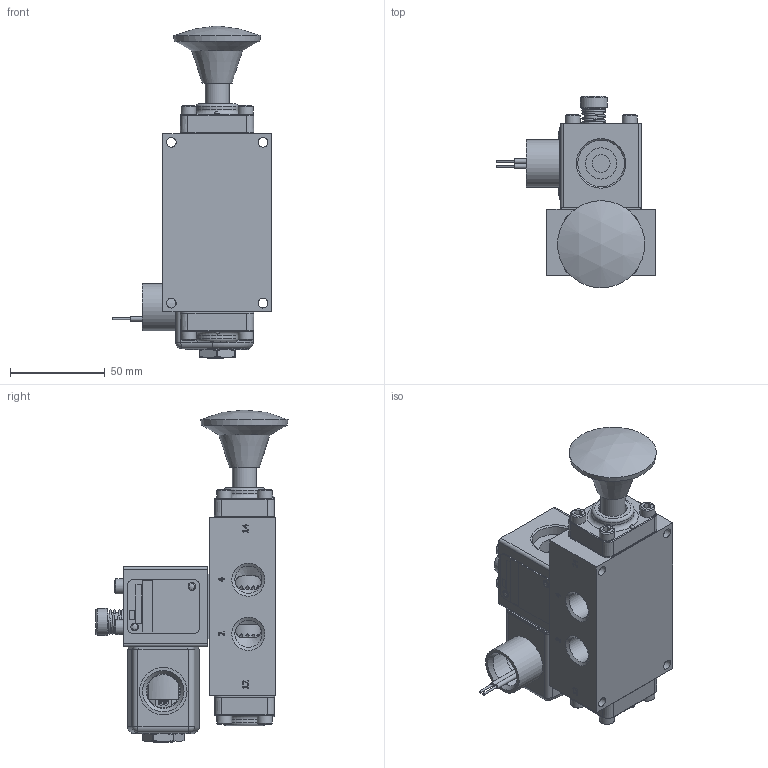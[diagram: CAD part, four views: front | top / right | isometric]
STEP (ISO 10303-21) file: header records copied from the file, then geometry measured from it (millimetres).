
FILE_DESCRIPTION(/* description */ (''),/* implementation_level */ '2;1');
FILE_NAME(/* name */ 'D:\Engineering\Product\valves\Assembly\Classic\SAK\stp\SAK3O.stp',/* time_stamp */ '2021-03-29T12:29:08-04:00',/* author */ ('RMcKenna'),/* organization */ (''),/* preprocessor_version */ 'ST-DEVELOPER v18.1',/* originating_system */ 'Autodesk Inventor 2021',/* authorisation */ '');
FILE_SCHEMA (('AUTOMOTIVE_DESIGN { 1 0 10303 214 3 1 1 }'));
Products named in the file (1): Part164
Bounding box: 83.65 x 101.42 x 175.31 mm (x, y, z)
Volume: 327967.9 mm3; surface area: 113769 mm2
Topology: 3 solids, 38 shells, 1701 faces, 4230 edges, 2740 vertices
Faces by surface type: plane 783, cylinder 333, cone 308, bspline 138, torus 130, sphere 9
Full cylindrical faces by diameter (mm): 1.168 x2, 1.727 x3, 2.07 x2, 2.261 x2, 2.35 x1, 2.54 x2, 2.778 x2, 3.048 x3, 3.175 x3, 3.302 x1, 3.683 x14, 3.912 x1, 3.962 x1, 4.366 x8, 4.826 x16, 5.156 x12, 5.159 x5, 5.537 x5, 6.401 x2, 6.629 x2, 7.938 x12, 7.95 x1, 9.144 x1, 9.474 x5, 9.525 x2, 9.728 x1, 9.83 x1, 10.973 x2, 11.303 x3, 11.328 x1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
Entity records: 57755 total; most frequent: CARTESIAN_POINT 16092, ORIENTED_EDGE 8404, DIRECTION 8122, EDGE_CURVE 4202, AXIS2_PLACEMENT_3D 3010, VERTEX_POINT 2740, LINE 2102, VECTOR 2102
